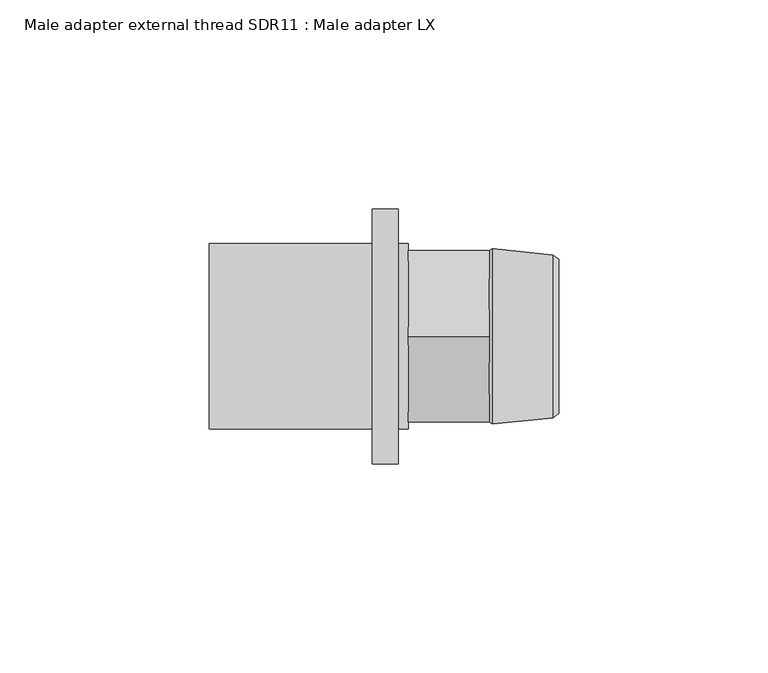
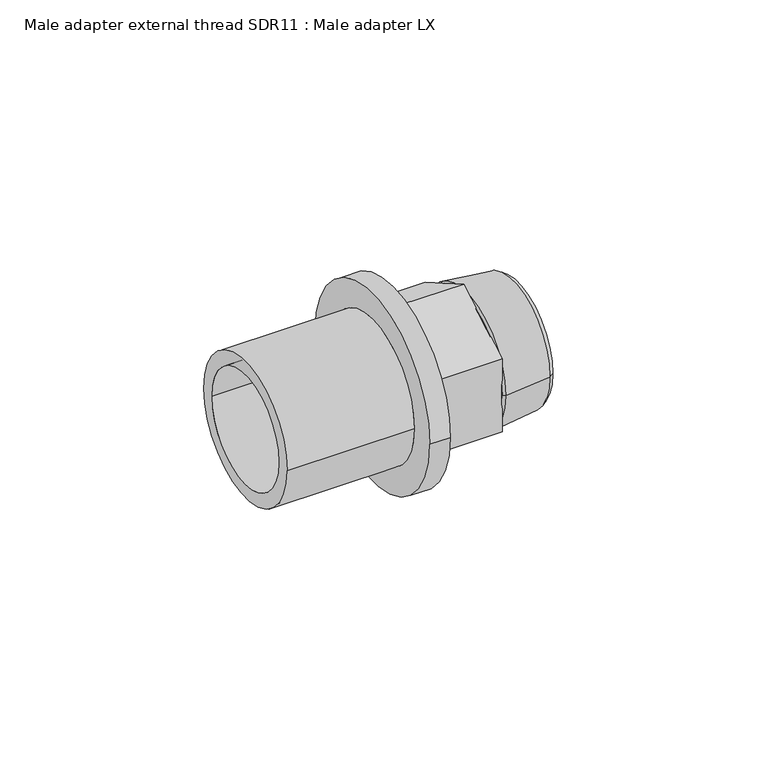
"""IFC4 building model written with IfcOpenShell, lengths in millimetres: pipe fitting geometry, Male adapter external thread SDR11 : Male adapter LX."""

import ifcopenshell
import ifcopenshell.guid

model = None  # the IFC model being written
_history = None  # IfcOwnerHistory: only IFC2X3 demands one
_inside = {}  # id of a spatial element -> (the spatial element, [elements in it])
_under = {}  # id of a project, library or spatial element -> (it, [spatial elements below it])
_declared = {}  # id of a project -> (the project, [libraries it declares])
_typed = {}  # id of a type object -> (the type object, [elements of that type])
_made_of = {}  # id of a material, layer set ... -> (it, [elements and type objects made of it])


def new_model(schema):
    """Start an empty IFC model of exactly this schema.

    Asked for "IFC4X3", IfcOpenShell would pick the latest addendum, in which some entities
    have other attributes; the version numbers below select the first issue.
    IFC2X3 requires an IfcOwnerHistory on every rooted entity: one is made here for all.
    """
    global model, _history
    if schema == "IFC4X3":
        model = ifcopenshell.file(schema_version=(4, 3, 0, 0))
    else:
        model = ifcopenshell.file(schema=schema)
    _inside.clear()
    _under.clear()
    _declared.clear()
    _typed.clear()
    _made_of.clear()
    _history = None
    if model.schema == "IFC2X3":
        org = make("IfcOrganization", Name="unknown")
        user = make(
            "IfcPersonAndOrganization",
            ThePerson=make("IfcPerson", FamilyName="unknown"),
            TheOrganization=org,
        )
        app = make(
            "IfcApplication",
            ApplicationDeveloper=org,
            Version="unknown",
            ApplicationFullName="unknown",
            ApplicationIdentifier="unknown",
        )
        _history = make(
            "IfcOwnerHistory",
            OwningUser=user,
            OwningApplication=app,
            ChangeAction="ADDED",
            CreationDate=0,
        )
    return model


def make(cls, **values):
    """One entity of the class cls with the attributes given. An attribute that is None is left unset."""
    return model.create_entity(
        cls, **{name: value for name, value in values.items() if value is not None}
    )


def rooted(cls, **values):
    """An entity with a GlobalId (a new one), such as an element, a storey or a relation."""
    return make(cls, GlobalId=ifcopenshell.guid.new(), OwnerHistory=_history, **values)


def si_unit(unit_type, name, prefix=None):
    """IfcSIUnit, for example si_unit("LENGTHUNIT", "METRE", prefix="MILLI")."""
    return make("IfcSIUnit", UnitType=unit_type, Prefix=prefix, Name=name)


def assignment(units):
    """IfcUnitAssignment: the units of a project."""
    return None if units is None else make("IfcUnitAssignment", Units=units)


def point(xyz):
    """IfcCartesianPoint."""
    return None if xyz is None else make("IfcCartesianPoint", Coordinates=xyz)


def direction(xyz):
    """IfcDirection."""
    return None if xyz is None else make("IfcDirection", DirectionRatios=xyz)


def frame(location, z_axis=None, x_axis=None):
    """IfcAxis2Placement3D, a coordinate frame: its origin and axes. An axis left out is left unset."""
    return make(
        "IfcAxis2Placement3D",
        Location=point(location),
        Axis=direction(z_axis),
        RefDirection=direction(x_axis),
    )


def origin():
    """The frame at (0, 0, 0) with its axes left unset."""
    return frame((0.0, 0.0, 0.0))


def place(relative_to, where):
    """IfcLocalPlacement: puts the frame where relative to a parent placement (None: the world)."""
    return make(
        "IfcLocalPlacement", PlacementRelTo=relative_to, RelativePlacement=where
    )


def context(
    kind, dimensions, precision=None, world=None, true_north=None, identifier=None
):
    """IfcGeometricRepresentationContext, for example the 3D "Model" context."""
    return make(
        "IfcGeometricRepresentationContext",
        ContextIdentifier=identifier,
        ContextType=kind,
        CoordinateSpaceDimension=dimensions,
        Precision=precision,
        WorldCoordinateSystem=world,
        TrueNorth=true_north,
    )


def project(units=None, contexts=None):
    """IfcProject with its units and contexts."""
    return rooted(
        "IfcProject",
        Name="project",
        RepresentationContexts=contexts,
        UnitsInContext=assignment(units),
    )


def spatial(cls, under=None, at=None, **own):
    """A site, building, storey or space (cls), placed at a placement, below another one or the project."""
    s = rooted(cls, ObjectPlacement=at, **own)
    if under is not None:
        _under.setdefault(under.id(), (under, []))[1].append(s)
    return s


def polyline(points):
    """IfcPolyline through the points."""
    return make("IfcPolyline", Points=[point(p) for p in points])


def circle_curve(where, radius):
    """IfcCircle in the frame where."""
    return make("IfcCircle", Position=where, Radius=radius)


def outline(outer, holes=None, kind="AREA"):
    """IfcArbitraryClosedProfileDef: a profile drawn as a closed curve; with holes, ...WithVoids."""
    if holes is None:
        return make("IfcArbitraryClosedProfileDef", ProfileType=kind, OuterCurve=outer)
    return make(
        "IfcArbitraryProfileDefWithVoids",
        ProfileType=kind,
        OuterCurve=outer,
        InnerCurves=holes,
    )


def extrude(swept, where, along, depth):
    """IfcExtrudedAreaSolid: the profile swept, set in the frame where, extruded along a direction by depth."""
    return make(
        "IfcExtrudedAreaSolid",
        SweptArea=swept,
        Position=where,
        ExtrudedDirection=direction(along),
        Depth=depth,
    )


def shape(context_of_items, identifier, shape_type, items):
    """IfcShapeRepresentation: the items that make up one representation, for example the "Body"."""
    return make(
        "IfcShapeRepresentation",
        ContextOfItems=context_of_items,
        RepresentationIdentifier=identifier,
        RepresentationType=shape_type,
        Items=items,
    )


def source(mapping_origin, context_of_items, identifier, shape_type, items):
    """IfcRepresentationMap: a shape defined once, which mapped items show again and again."""
    return make(
        "IfcRepresentationMap",
        MappingOrigin=mapping_origin,
        MappedRepresentation=shape(context_of_items, identifier, shape_type, items),
    )


def transform(
    local_origin,
    x_axis=None,
    y_axis=None,
    z_axis=None,
    scale=None,
    scale2=None,
    scale3=None,
    uniform=True,
):
    """IfcCartesianTransformationOperator3D, or its non-uniform kind. x_axis, y_axis, z_axis: its Axis1, 2, 3."""
    if uniform:
        return make(
            "IfcCartesianTransformationOperator3D",
            Axis1=direction(x_axis),
            Axis2=direction(y_axis),
            LocalOrigin=point(local_origin),
            Scale=scale,
            Axis3=direction(z_axis),
        )
    return make(
        "IfcCartesianTransformationOperator3DnonUniform",
        Axis1=direction(x_axis),
        Axis2=direction(y_axis),
        LocalOrigin=point(local_origin),
        Scale=scale,
        Axis3=direction(z_axis),
        Scale2=scale2,
        Scale3=scale3,
    )


def mapped(mapping_source, mapping_target):
    """IfcMappedItem: shows the shape of a source again, moved by a transform."""
    return make(
        "IfcMappedItem", MappingSource=mapping_source, MappingTarget=mapping_target
    )


def made_of(thing, what):
    """Note that an element or type object is made of a material, layer set ...; save() writes the relation."""
    if what is not None:
        _made_of.setdefault(what.id(), (what, []))[1].append(thing)
    return thing


def element(
    cls,
    number,
    at=None,
    inside=None,
    cuts=None,
    type_object=None,
    material=None,
    context=None,
    identifier="Body",
    shape_type=None,
    held_by="IfcProductDefinitionShape",
    body=None,
    shapes=None,
    **own,
):
    """One element of the class cls, such as IfcWall. Its Tag is "e" and its number.

    at: its placement. inside: the storey or other place that contains it. cuts: it is an
    opening in that element (IfcRelVoidsElement). A single representation is given by context,
    identifier, shape_type and body (its items); several are given by shapes. held_by: the class
    of the entity that holds the representations. save() writes the other relations.
    """
    e = rooted(cls, Tag="e%d" % number, ObjectPlacement=at, **own)
    if body is not None:
        shapes = [shape(context, identifier, shape_type, body)]
    if shapes is not None:
        e.Representation = make(held_by, Representations=shapes)
    if inside is not None:
        _inside.setdefault(inside.id(), (inside, []))[1].append(e)
    if cuts is not None:
        rooted(
            "IfcRelVoidsElement", RelatingBuildingElement=cuts, RelatedOpeningElement=e
        )
    if type_object is not None:
        _typed.setdefault(type_object.id(), (type_object, []))[1].append(e)
    return made_of(e, material)


def aggregate(whole, parts):
    """IfcRelAggregates: a whole, such as a stair, and the parts it consists of."""
    return rooted("IfcRelAggregates", RelatingObject=whole, RelatedObjects=parts)


def save(model, path):
    """Write the relations noted so far, then the file.

    IfcRelAggregates (storeys below a building ...), IfcRelContainedInSpatialStructure (elements
    in a storey), IfcRelDefinesByType, IfcRelAssociatesMaterial and IfcRelDeclares: one each for
    every whole, place, type object, material and project.
    """
    for whole, parts in _under.values():
        aggregate(whole, parts)
    for where, things in _inside.values():
        rooted(
            "IfcRelContainedInSpatialStructure",
            RelatedElements=things,
            RelatingStructure=where,
        )
    for kind, things in _typed.values():
        rooted("IfcRelDefinesByType", RelatedObjects=things, RelatingType=kind)
    for what, things in _made_of.values():
        rooted("IfcRelAssociatesMaterial", RelatedObjects=things, RelatingMaterial=what)
    for by, libraries in _declared.values():
        rooted("IfcRelDeclares", RelatingContext=by, RelatedDefinitions=libraries)
    model.write(path)


def plane_surface(at):
    """IfcPlane: the flat surface through the origin of the frame at, square to its z axis."""
    return make("IfcPlane", Position=at)


def cylinder_surface(at, radius):
    """IfcCylindricalSurface: all points at the distance radius from the z axis of the frame at."""
    return make("IfcCylindricalSurface", Position=at, Radius=radius)


def revolved_surface(curve, axis_point, axis_direction):
    """IfcSurfaceOfRevolution: the curve turned about the line through axis_point along axis_direction."""
    return make(
        "IfcSurfaceOfRevolution",
        SweptCurve=make("IfcArbitraryOpenProfileDef", ProfileType="CURVE", Curve=curve),
        AxisPosition=make("IfcAxis1Placement", Location=point(axis_point), Axis=direction(axis_direction)),
    )


def advanced_brep(points, edges, surfaces, faces):
    """IfcAdvancedBrep: a solid bounded by faces that lie on surfaces and meet in shared edges.

    An edge is (start, end): straight between two places in points (the first is 0);
    or (start, end, curve); or (start, end, curve, False) where it runs against its curve.
    A face is (place in surfaces, loops), or (place, loops, False) where it looks against
    its surface's normal. A loop lists edges by number (the first is 1), with a minus sign
    where the edge is run from its end to its start. The first loop is the outer one.
    """
    corners = [point(p) for p in points]
    vertices = [make("IfcVertexPoint", VertexGeometry=c) for c in corners]
    made = []
    for start, end, *more in edges:
        made.append(
            make(
                "IfcEdgeCurve",
                EdgeStart=vertices[start],
                EdgeEnd=vertices[end],
                EdgeGeometry=more[0] if more else make("IfcPolyline", Points=[corners[start], corners[end]]),
                SameSense=more[1] if len(more) > 1 else True,
            )
        )
    hull = []
    for where, loops, *sense in faces:
        bounds = []
        for j, loop in enumerate(loops):
            ring = [make("IfcOrientedEdge", EdgeElement=made[abs(k) - 1], Orientation=k > 0) for k in loop]
            bounds.append(
                make(
                    "IfcFaceOuterBound" if j == 0 else "IfcFaceBound",
                    Bound=make("IfcEdgeLoop", EdgeList=ring),
                    Orientation=True,
                )
            )
        hull.append(make("IfcAdvancedFace", Bounds=bounds, FaceSurface=surfaces[where], SameSense=sense[0] if sense else True))
    return make("IfcAdvancedBrep", Outer=make("IfcClosedShell", CfsFaces=hull))


def male_adapter_external_thread_sdr11_male_adapter_lx_ea96c67b(model_context):
    return source(origin(), model_context, "Body", "SolidModel", [
        advanced_brep(
        [(-8.7, 22.15, 0.0), (-8.7, -22.15, 0.0), (-47.7, -22.15, 0.0), (-47.7, 22.15, 0.0), (-2.4, 30.5, 0.0), (-2.4, -30.5, 0.0), (-8.7, -30.5, 0.0), (-8.7, 30.5, 0.0), (0.0, 22.15, 0.0), (0.0, -22.15, 0.0), (-2.4, -22.15, 0.0), (-2.4, 22.15, 0.0), (-47.7, 17.75, 0.0), (-47.7, -17.75, 0.0), (0.0, -17.75, 0.0), (0.0, 17.75, 0.0)],
        [
            (0, 1, circle_curve(frame((-8.7, 0.0, 0.0), z_axis=(-1.0, 0.0, 0.0), x_axis=(0.0, -1.0, 0.0)), 22.15)),
            (1, 2),
            (2, 3, circle_curve(frame((-47.7, 0.0, 0.0), z_axis=(1.0, 0.0, 0.0), x_axis=(0.0, -1.0, 0.0)), 22.15)),
            (3, 0),
            (4, 5, circle_curve(frame((-2.4, 0.0, 0.0), z_axis=(-1.0, 0.0, 0.0), x_axis=(0.0, -1.0, 0.0)), 30.5)),
            (5, 6),
            (6, 7, circle_curve(frame((-8.7, 0.0, 0.0), z_axis=(1.0, 0.0, 0.0), x_axis=(0.0, -1.0, 0.0)), 30.5)),
            (7, 4),
            (8, 9, circle_curve(frame((0.0, 0.0, 0.0), z_axis=(-1.0, 0.0, 0.0), x_axis=(0.0, -1.0, 0.0)), 22.15)),
            (9, 10),
            (10, 11, circle_curve(frame((-2.4, 0.0, 0.0), z_axis=(1.0, 0.0, 0.0), x_axis=(0.0, -1.0, 0.0)), 22.15)),
            (11, 8),
            (12, 13, circle_curve(frame((-47.7, 0.0, 0.0), z_axis=(-1.0, 0.0, 0.0), x_axis=(0.0, -1.0, 0.0)), 17.75)),
            (13, 14),
            (14, 15, circle_curve(frame((0.0, 0.0, 0.0), z_axis=(1.0, 0.0, 0.0), x_axis=(0.0, -1.0, 0.0)), 17.75)),
            (15, 12),
            (2, 3, circle_curve(frame((-47.7, 0.0, 0.0), z_axis=(-1.0, 0.0, 0.0), x_axis=(0.0, 1.0, 0.0)), 22.15)),
            (12, 13, circle_curve(frame((-47.7, 0.0, 0.0), z_axis=(1.0, 0.0, 0.0), x_axis=(0.0, 1.0, 0.0)), 17.75)),
            (1, 0, circle_curve(frame((-8.7, 0.0, 0.0), z_axis=(-1.0, 0.0, 0.0), x_axis=(0.0, 1.0, 0.0)), 22.15)),
            (6, 7, circle_curve(frame((-8.7, 0.0, 0.0), z_axis=(-1.0, 0.0, 0.0), x_axis=(0.0, 1.0, 0.0)), 30.5)),
            (5, 4, circle_curve(frame((-2.4, 0.0, 0.0), z_axis=(-1.0, 0.0, 0.0), x_axis=(0.0, 1.0, 0.0)), 30.5)),
            (10, 11, circle_curve(frame((-2.4, 0.0, 0.0), z_axis=(-1.0, 0.0, 0.0), x_axis=(0.0, 1.0, 0.0)), 22.15)),
            (9, 8, circle_curve(frame((0.0, 0.0, 0.0), z_axis=(-1.0, 0.0, 0.0), x_axis=(0.0, 1.0, 0.0)), 22.15)),
            (14, 15, circle_curve(frame((0.0, 0.0, 0.0), z_axis=(-1.0, 0.0, 0.0), x_axis=(0.0, 1.0, 0.0)), 17.75)),
        ],
        [
            cylinder_surface(frame((0.0, 0.0, 0.0), z_axis=(1.0, 0.0, 0.0), x_axis=(0.0, -1.0, 0.0)), 22.15),
            cylinder_surface(frame((0.0, 0.0, 0.0), z_axis=(1.0, 0.0, 0.0), x_axis=(0.0, -1.0, 0.0)), 30.5),
            revolved_surface(polyline([(0.0, -17.75, 0.0), (-47.7, -17.75, 0.0)]), (0.0, 0.0, 0.0), (1.0, 0.0, 0.0)),
            plane_surface(frame((-47.7, 0.0, 0.0), z_axis=(-1.0, 0.0, 0.0), x_axis=(0.0, 1.0, 0.0))),
            cylinder_surface(frame((0.0, 0.0, 0.0), z_axis=(1.0, 0.0, 0.0), x_axis=(0.0, 1.0, 0.0)), 22.15),
            plane_surface(frame((-8.7, 0.0, 0.0), z_axis=(-1.0, 0.0, 0.0), x_axis=(0.0, 1.0, 0.0))),
            cylinder_surface(frame((0.0, 0.0, 0.0), z_axis=(1.0, 0.0, 0.0), x_axis=(0.0, 1.0, 0.0)), 30.5),
            plane_surface(frame((-2.4, 0.0, 0.0), z_axis=(1.0, 0.0, 0.0), x_axis=(0.0, 1.0, 0.0))),
            plane_surface(frame((0.0, 0.0, 0.0), z_axis=(1.0, 0.0, 0.0), x_axis=(0.0, 1.0, 0.0))),
            revolved_surface(polyline([(0.0, 17.75, 0.0), (-47.7, 17.75, 0.0)]), (0.0, 0.0, 0.0), (1.0, 0.0, 0.0)),
        ],
        [
            (0, [[1, 2, 3, 4]]),
            (1, [[5, 6, 7, 8]]),
            (0, [[9, 10, 11, 12]]),
            (2, [[13, 14, 15, 16]]),
            (3, [[17, -3], [18, -13]]),
            (4, [[19, -4, -17, -2]]),
            (5, [[20, -7], [-19, -1]]),
            (6, [[21, -8, -20, -6]]),
            (7, [[-21, -5], [22, -11]]),
            (4, [[23, -12, -22, -10]]),
            (8, [[-23, -9], [24, -15]]),
            (9, [[-18, -16, -24, -14]]),
        ],
    ),
        advanced_brep(
        [(20.4032803, 15.25, 0.0), (20.4032803, -15.25, 0.0), (36.0, -15.25, 0.0), (36.0, 15.25, 0.0), (19.3, 14.1467197, 0.0), (19.3, -14.1467197, 0.0), (20.0406902, 21.0, 0.0), (20.0406902, -21.0, 0.0), (19.3, -20.5, 0.0), (19.3, 20.5, 0.0), (34.5000007, 19.5, 0.0), (34.5000007, -19.5, 0.0), (36.0, 18.5, 0.0), (36.0, -18.5, 0.0)],
        [
            (0, 1, circle_curve(frame((20.4032803, 0.0, 0.0), z_axis=(-1.0, 0.0, 0.0), x_axis=(0.0, -1.0, 0.0)), 15.25)),
            (1, 2),
            (2, 3, circle_curve(frame((36.0, 0.0, 0.0), z_axis=(1.0, 0.0, 0.0), x_axis=(0.0, -1.0, 0.0)), 15.25)),
            (3, 0),
            (4, 5, circle_curve(frame((19.3, 0.0, 0.0), z_axis=(-1.0, 0.0, 0.0), x_axis=(0.0, -1.0, 0.0)), 14.1467197)),
            (5, 1),
            (0, 4),
            (6, 7, circle_curve(frame((20.0406902, 0.0, 0.0), z_axis=(-1.0, 0.0, 0.0), x_axis=(0.0, -1.0, 0.0)), 21.0)),
            (7, 8),
            (8, 9, circle_curve(frame((19.3, 0.0, 0.0), z_axis=(1.0, 0.0, 0.0), x_axis=(0.0, -1.0, 0.0)), 20.5)),
            (9, 6),
            (10, 11, circle_curve(frame((34.5000007, 0.0, 0.0), z_axis=(-1.0, 0.0, 0.0), x_axis=(0.0, -1.0, 0.0)), 19.5)),
            (11, 7),
            (6, 10),
            (12, 13, circle_curve(frame((36.0, 0.0, 0.0), z_axis=(-1.0, 0.0, 0.0), x_axis=(0.0, -1.0, 0.0)), 18.5)),
            (13, 11),
            (10, 12),
            (1, 0, circle_curve(frame((20.4032803, 0.0, 0.0), z_axis=(-1.0, 0.0, 0.0), x_axis=(0.0, 1.0, 0.0)), 15.25)),
            (3, 2, circle_curve(frame((36.0, 0.0, 0.0), z_axis=(1.0, 0.0, 0.0), x_axis=(0.0, 1.0, 0.0)), 15.25)),
            (5, 4, circle_curve(frame((19.3, 0.0, 0.0), z_axis=(-1.0, 0.0, 0.0), x_axis=(0.0, 1.0, 0.0)), 14.1467197)),
            (8, 9, circle_curve(frame((19.3, 0.0, 0.0), z_axis=(-1.0, 0.0, 0.0), x_axis=(0.0, 1.0, 0.0)), 20.5)),
            (7, 6, circle_curve(frame((20.0406902, 0.0, 0.0), z_axis=(-1.0, 0.0, 0.0), x_axis=(0.0, 1.0, 0.0)), 21.0)),
            (11, 10, circle_curve(frame((34.5000007, 0.0, 0.0), z_axis=(-1.0, 0.0, 0.0), x_axis=(0.0, 1.0, 0.0)), 19.5)),
            (13, 12, circle_curve(frame((36.0, 0.0, 0.0), z_axis=(-1.0, 0.0, 0.0), x_axis=(0.0, 1.0, 0.0)), 18.5)),
        ],
        [
            revolved_surface(polyline([(36.0, -15.25, 0.0), (20.4032803, -15.25, 0.0)]), (0.0, 0.0, 0.0), (1.0, 0.0, 0.0)),
            revolved_surface(polyline([(20.4032803, -15.25, 0.0), (19.3, -14.1467197, 0.0)]), (0.0, 0.0, 0.0), (1.0, 0.0, 0.0)),
            revolved_surface(polyline([(19.3, -20.5, 0.0), (20.0406902, -21.0, 0.0)]), (0.0, 0.0, 0.0), (1.0, 0.0, 0.0)),
            revolved_surface(polyline([(20.0406902, -21.0, 0.0), (34.5000007, -19.5, 0.0)]), (0.0, 0.0, 0.0), (1.0, 0.0, 0.0)),
            revolved_surface(polyline([(34.5000007, -19.5, 0.0), (36.0, -18.5, 0.0)]), (0.0, 0.0, 0.0), (1.0, 0.0, 0.0)),
            revolved_surface(polyline([(36.0, 15.25, 0.0), (20.4032803, 15.25, 0.0)]), (0.0, 0.0, 0.0), (1.0, 0.0, 0.0)),
            revolved_surface(polyline([(20.4032803, 15.25, 0.0), (19.3, 14.1467197, 0.0)]), (0.0, 0.0, 0.0), (1.0, 0.0, 0.0)),
            plane_surface(frame((19.3, 0.0, 0.0), z_axis=(-1.0, 0.0, 0.0), x_axis=(0.0, 1.0, 0.0))),
            revolved_surface(polyline([(19.3, 20.5, 0.0), (20.0406902, 21.0, 0.0)]), (0.0, 0.0, 0.0), (1.0, 0.0, 0.0)),
            revolved_surface(polyline([(20.0406902, 21.0, 0.0), (34.5000007, 19.5, 0.0)]), (0.0, 0.0, 0.0), (1.0, 0.0, 0.0)),
            revolved_surface(polyline([(34.5000007, 19.5, 0.0), (36.0, 18.5, 0.0)]), (0.0, 0.0, 0.0), (1.0, 0.0, 0.0)),
            plane_surface(frame((36.0, 0.0, 0.0), z_axis=(1.0, 0.0, 0.0), x_axis=(0.0, 1.0, 0.0))),
        ],
        [
            (0, [[1, 2, 3, 4]]),
            (1, [[5, 6, -1, 7]]),
            (2, [[8, 9, 10, 11]]),
            (3, [[12, 13, -8, 14]]),
            (4, [[15, 16, -12, 17]]),
            (5, [[18, -4, 19, -2]]),
            (6, [[20, -7, -18, -6]]),
            (7, [[21, -10], [-20, -5]]),
            (8, [[22, -11, -21, -9]]),
            (9, [[23, -14, -22, -13]]),
            (10, [[24, -17, -23, -16]]),
            (11, [[-24, -15], [-19, -3]]),
        ],
    ),
        extrude(outline(polyline([(-20.5, 11.8356805), (0.0, 23.671361), (20.5, 11.8356805), (20.5, -11.8356805), (0.0, -23.671361), (-20.5, -11.8356805), (-20.5, 11.8356805)])), frame((0.0, 0.0, 0.0), z_axis=(1.0, 0.0, 0.0), x_axis=(0.0, 1.0, 0.0)), (0.0, 0.0, 1.0), 19.3),
    ])


if __name__ == "__main__":
    model = new_model("IFC4")
    model_context = context("Model", 3, world=origin())
    ifc_project = project(units=[si_unit("LENGTHUNIT", "METRE", prefix="MILLI")], contexts=[model_context])
    site = spatial("IfcSite", under=ifc_project)
    building = spatial("IfcBuilding", under=site)
    placement = place(None, origin())
    male_adapter_external_thread_sdr11_male_adapter_lx_shape = male_adapter_external_thread_sdr11_male_adapter_lx_ea96c67b(model_context)
    element("IfcPipeFitting", 1, ObjectType="Male adapter external thread SDR11 : Male adapter LX", at=placement, inside=building, context=model_context, shape_type="MappedRepresentation", body=[
        mapped(male_adapter_external_thread_sdr11_male_adapter_lx_shape, transform((0.0, 0.0, 0.0), x_axis=(1.0, 0.0, 0.0), y_axis=(0.0, 1.0, 0.0), z_axis=(0.0, 0.0, 1.0))),
    ])
    save(model, "model.ifc")
